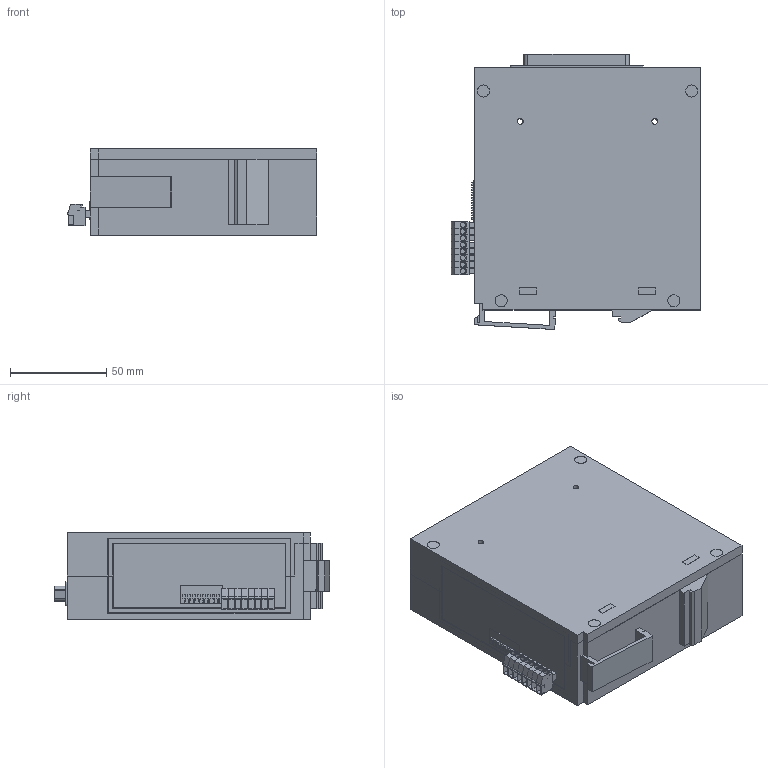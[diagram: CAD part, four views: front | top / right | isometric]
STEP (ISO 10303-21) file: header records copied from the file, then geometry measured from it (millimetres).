
FILE_DESCRIPTION (( 'STEP AP214' ), '1' );
FILE_NAME ('Z1691_Signalwandler~0.STEP', '2017-11-16T09:20:32', ( '' ), ( '' ), 'SwSTEP 2.0', 'SolidWorks 2017', '' );
FILE_SCHEMA (( 'AUTOMOTIVE_DESIGN' ));
Length unit declared in the file: millimetre
Products named in the file (1): Z1691_Signalwandler~0
Bounding box: 130 x 143.25 x 45 mm (x, y, z)
Volume: 168507 mm3; surface area: 181209.3 mm2
Topology: 17 solids, 17 shells, 2833 faces, 7566 edges, 5041 vertices
Faces by surface type: plane 2392, cylinder 367, cone 74
Entity records: 118667 total; most frequent: CARTESIAN_POINT 15529, ORIENTED_EDGE 15132, DIRECTION 14112, EDGE_CURVE 7566, VECTOR 6672, LINE 6672, VERTEX_POINT 5041, AXIS2_PLACEMENT_3D 3720
